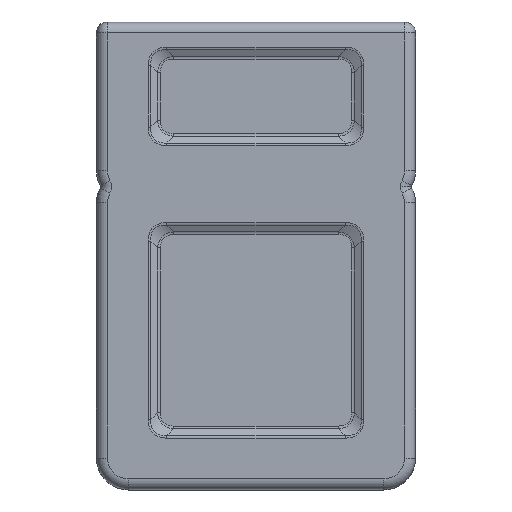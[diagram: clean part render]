
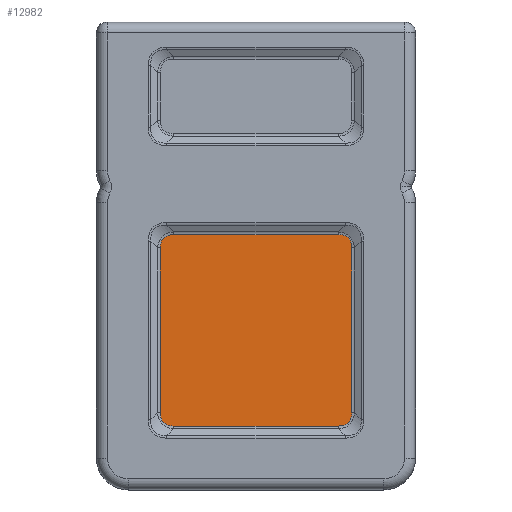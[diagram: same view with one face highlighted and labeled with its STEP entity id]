
A CAD part, top view. The second image highlights one B-rep face of the part: STEP entity #12982.
In plain terms, the highlighted planar face has unit normal (0, 0, 1).
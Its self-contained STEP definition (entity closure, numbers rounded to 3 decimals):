
#189 = CARTESIAN_POINT ( 'NONE',  ( 8.565, -30.991, 2.5 ) ) ;
#449 = PLANE ( 'NONE',  #12858 ) ;
#526 = CARTESIAN_POINT ( 'NONE',  ( -9., -29.741, 2.5 ) ) ;
#647 = CARTESIAN_POINT ( 'NONE',  ( 0., -12.991, 2.5 ) ) ;
#1694 = CARTESIAN_POINT ( 'NONE',  ( 9., -29.741, 2.5 ) ) ;
#1901 = CARTESIAN_POINT ( 'NONE',  ( -9., -30.556, 2.5 ) ) ;
#2018 = DIRECTION ( 'NONE',  ( 0., 1., 0. ) ) ;
#2037 = CARTESIAN_POINT ( 'NONE',  ( -9., -29.741, 2.5 ) ) ;
#2473 = DIRECTION ( 'NONE',  ( 0., -1., 0. ) ) ;
#2476 = DIRECTION ( 'NONE',  ( 0., 0., 1. ) ) ;
#2867 = CARTESIAN_POINT ( 'NONE',  ( -7.75, -12.991, 2.5 ) ) ;
#2918 = CARTESIAN_POINT ( 'NONE',  ( 9., -14.241, 2.5 ) ) ;
#2923 = CARTESIAN_POINT ( 'NONE',  ( 7.75, -30.991, 2.5 ) ) ;
#3230 = VECTOR ( 'NONE', #2018, 1000. ) ;
#3464 = EDGE_CURVE ( 'NONE', #4648, #8492, #7981, .T. ) ;
#3508 = CARTESIAN_POINT ( 'NONE',  ( -8.565, -12.991, 2.5 ) ) ;
#3617 = ORIENTED_EDGE ( 'NONE', *, *, #12055, .T. ) ;
#3672 = VERTEX_POINT ( 'NONE', #526 ) ;
#3680 = CARTESIAN_POINT ( 'NONE',  ( -9., -13.427, 2.5 ) ) ;
#4508 = ORIENTED_EDGE ( 'NONE', *, *, #8130, .T. ) ;
#4648 = VERTEX_POINT ( 'NONE', #9493 ) ;
#5224 = EDGE_LOOP ( 'NONE', ( #11007, #12841, #3617, #5924, #8881, #4508, #12894, #10667 ) ) ;
#5679 = CARTESIAN_POINT ( 'NONE',  ( 0., -30.991, 2.5 ) ) ;
#5730 = LINE ( 'NONE', #12069, #3230 ) ;
#5924 = ORIENTED_EDGE ( 'NONE', *, *, #6037, .T. ) ;
#6026 = CARTESIAN_POINT ( 'NONE',  ( 9., -30.556, 2.5 ) ) ;
#6037 = EDGE_CURVE ( 'NONE', #8544, #10964, #8687, .T. ) ;
#6373 = CARTESIAN_POINT ( 'NONE',  ( -7.75, -30.991, 2.5 ) ) ;
#6409 = DIRECTION ( 'NONE',  ( 1., 0., 0. ) ) ;
#6505 = CARTESIAN_POINT ( 'NONE',  ( -9., -14.241, 2.5 ) ) ;
#6510 = EDGE_CURVE ( 'NONE', #10964, #3672, #6763, .T. ) ;
#6742 = DIRECTION ( 'NONE',  ( -1., 0., 0. ) ) ;
#6763 = LINE ( 'NONE', #7541, #10663 ) ;
#6966 = CARTESIAN_POINT ( 'NONE',  ( -8.565, -30.991, 2.5 ) ) ;
#7302 = VERTEX_POINT ( 'NONE', #10956 ) ;
#7541 = CARTESIAN_POINT ( 'NONE',  ( -9., 0., 2.5 ) ) ;
#7981 =( BOUNDED_CURVE ( )  B_SPLINE_CURVE ( 3, ( #2923, #189, #6026, #10259 ),
 .UNSPECIFIED., .F., .F. ) 
 B_SPLINE_CURVE_WITH_KNOTS ( ( 4, 4 ),
 ( 2.78, 3.503 ),
 .UNSPECIFIED. ) 
 CURVE ( )  GEOMETRIC_REPRESENTATION_ITEM ( )  RATIONAL_B_SPLINE_CURVE ( ( 1., 0.957, 0.957, 1. ) ) 
 REPRESENTATION_ITEM ( '' )  );
#7985 = CARTESIAN_POINT ( 'NONE',  ( 8.565, -12.991, 2.5 ) ) ;
#8130 = EDGE_CURVE ( 'NONE', #3672, #8288, #8930, .T. ) ;
#8288 = VERTEX_POINT ( 'NONE', #6373 ) ;
#8492 = VERTEX_POINT ( 'NONE', #1694 ) ;
#8544 = VERTEX_POINT ( 'NONE', #2867 ) ;
#8565 = EDGE_CURVE ( 'NONE', #9495, #7302, #9747, .T. ) ;
#8584 = FACE_OUTER_BOUND ( 'NONE', #5224, .T. ) ;
#8687 =( BOUNDED_CURVE ( )  B_SPLINE_CURVE ( 3, ( #9658, #3508, #3680, #6505 ),
 .UNSPECIFIED., .F., .F. ) 
 B_SPLINE_CURVE_WITH_KNOTS ( ( 4, 4 ),
 ( 2.78, 3.503 ),
 .UNSPECIFIED. ) 
 CURVE ( )  GEOMETRIC_REPRESENTATION_ITEM ( )  RATIONAL_B_SPLINE_CURVE ( ( 1., 0.957, 0.957, 1. ) ) 
 REPRESENTATION_ITEM ( '' )  );
#8881 = ORIENTED_EDGE ( 'NONE', *, *, #6510, .T. ) ;
#8930 =( BOUNDED_CURVE ( )  B_SPLINE_CURVE ( 3, ( #2037, #1901, #6966, #9372 ),
 .UNSPECIFIED., .F., .T. ) 
 B_SPLINE_CURVE_WITH_KNOTS ( ( 4, 4 ),
 ( 2.78, 3.503 ),
 .UNSPECIFIED. ) 
 CURVE ( )  GEOMETRIC_REPRESENTATION_ITEM ( )  RATIONAL_B_SPLINE_CURVE ( ( 1., 0.957, 0.957, 1. ) ) 
 REPRESENTATION_ITEM ( '' )  );
#9215 = EDGE_CURVE ( 'NONE', #8492, #9495, #5730, .T. ) ;
#9303 = CARTESIAN_POINT ( 'NONE',  ( 0., 0., 2.5 ) ) ;
#9372 = CARTESIAN_POINT ( 'NONE',  ( -7.75, -30.991, 2.5 ) ) ;
#9431 = LINE ( 'NONE', #5679, #12233 ) ;
#9493 = CARTESIAN_POINT ( 'NONE',  ( 7.75, -30.991, 2.5 ) ) ;
#9495 = VERTEX_POINT ( 'NONE', #12610 ) ;
#9658 = CARTESIAN_POINT ( 'NONE',  ( -7.75, -12.991, 2.5 ) ) ;
#9747 =( BOUNDED_CURVE ( )  B_SPLINE_CURVE ( 3, ( #2918, #11823, #7985, #9879 ),
 .UNSPECIFIED., .F., .F. ) 
 B_SPLINE_CURVE_WITH_KNOTS ( ( 4, 4 ),
 ( 2.78, 3.503 ),
 .UNSPECIFIED. ) 
 CURVE ( )  GEOMETRIC_REPRESENTATION_ITEM ( )  RATIONAL_B_SPLINE_CURVE ( ( 1., 0.957, 0.957, 1. ) ) 
 REPRESENTATION_ITEM ( '' )  );
#9879 = CARTESIAN_POINT ( 'NONE',  ( 7.75, -12.991, 2.5 ) ) ;
#10259 = CARTESIAN_POINT ( 'NONE',  ( 9., -29.741, 2.5 ) ) ;
#10644 = DIRECTION ( 'NONE',  ( 1., 0., 0. ) ) ;
#10663 = VECTOR ( 'NONE', #2473, 1000. ) ;
#10667 = ORIENTED_EDGE ( 'NONE', *, *, #3464, .T. ) ;
#10956 = CARTESIAN_POINT ( 'NONE',  ( 7.75, -12.991, 2.5 ) ) ;
#10964 = VERTEX_POINT ( 'NONE', #11481 ) ;
#11007 = ORIENTED_EDGE ( 'NONE', *, *, #9215, .T. ) ;
#11121 = EDGE_CURVE ( 'NONE', #8288, #4648, #9431, .T. ) ;
#11481 = CARTESIAN_POINT ( 'NONE',  ( -9., -14.241, 2.5 ) ) ;
#11823 = CARTESIAN_POINT ( 'NONE',  ( 9., -13.427, 2.5 ) ) ;
#12055 = EDGE_CURVE ( 'NONE', #7302, #8544, #12666, .T. ) ;
#12069 = CARTESIAN_POINT ( 'NONE',  ( 9., 0., 2.5 ) ) ;
#12233 = VECTOR ( 'NONE', #10644, 1000. ) ;
#12353 = VECTOR ( 'NONE', #6742, 1000. ) ;
#12610 = CARTESIAN_POINT ( 'NONE',  ( 9., -14.241, 2.5 ) ) ;
#12666 = LINE ( 'NONE', #647, #12353 ) ;
#12841 = ORIENTED_EDGE ( 'NONE', *, *, #8565, .T. ) ;
#12858 = AXIS2_PLACEMENT_3D ( 'NONE', #9303, #2476, #6409 ) ;
#12894 = ORIENTED_EDGE ( 'NONE', *, *, #11121, .T. ) ;
#12982 = ADVANCED_FACE ( 'NONE', ( #8584 ), #449, .T. ) ;
